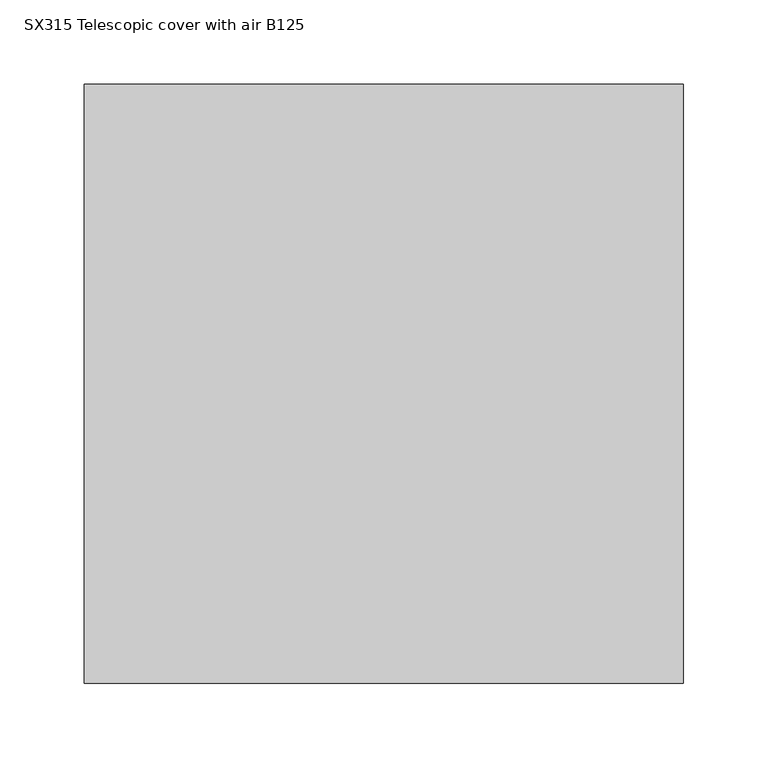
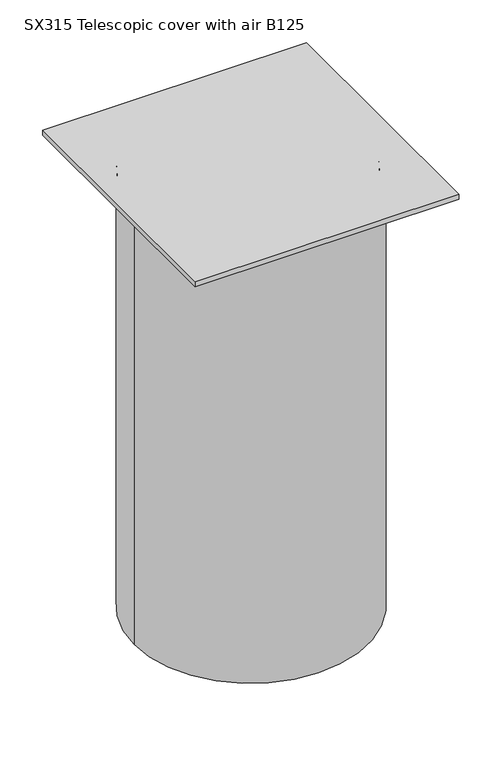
"""IFC4 building model written with IfcOpenShell, lengths in millimetres: pipe fitting geometry, Z_PIF_UN_Q-Bic_Plus_Telescopic_Square_Cover_Wavin_(nested) : SX315 Telescopic cover with air B125."""

from ifc_helpers import new_model, si_unit, frame, origin, place, context, project, spatial, polyline, circle_curve, outline, extrude, source, transform, mapped, element, save
from ifc_brep_helpers import plane_surface, cylinder_surface, revolved_surface, advanced_brep


def sx315_telescopic_cover_with_air_b125_2c5652aa(model_context):
    return source(origin(), model_context, "Body", "SolidModel", [
        advanced_brep(
        [(-149.8, 0.0, -7.0), (149.8, 0.0, -7.0), (157.5, 0.0, -7.0), (-157.5, 0.0, -7.0), (-149.8, 0.0, -630.0), (149.8, 0.0, -630.0), (-157.5, 0.0, -630.0), (157.5, 0.0, -630.0)],
        [
            (0, 1, circle_curve(frame((0.0, 0.0, -7.0), z_axis=(0.0, 0.0, -1.0), x_axis=(1.0, 0.0, 0.0)), 149.8)),
            (1, 2),
            (2, 3, circle_curve(frame((0.0, 0.0, -7.0), z_axis=(0.0, 0.0, 1.0), x_axis=(1.0, 0.0, 0.0)), 157.5)),
            (3, 0),
            (1, 0, circle_curve(frame((0.0, 0.0, -7.0), z_axis=(0.0, 0.0, -1.0), x_axis=(1.0, 0.0, 0.0)), 149.8)),
            (3, 2, circle_curve(frame((0.0, 0.0, -7.0), z_axis=(0.0, 0.0, 1.0), x_axis=(1.0, 0.0, 0.0)), 157.5)),
            (4, 5, circle_curve(frame((0.0, 0.0, -630.0), z_axis=(0.0, 0.0, -1.0), x_axis=(1.0, 0.0, 0.0)), 149.8)),
            (5, 1),
            (0, 4),
            (5, 4, circle_curve(frame((0.0, 0.0, -630.0), z_axis=(0.0, 0.0, -1.0), x_axis=(1.0, 0.0, 0.0)), 149.8)),
            (6, 7, circle_curve(frame((0.0, 0.0, -630.0), z_axis=(0.0, 0.0, -1.0), x_axis=(1.0, 0.0, 0.0)), 157.5)),
            (7, 5),
            (4, 6),
            (7, 6, circle_curve(frame((0.0, 0.0, -630.0), z_axis=(0.0, 0.0, -1.0), x_axis=(1.0, 0.0, 0.0)), 157.5)),
            (2, 7),
            (6, 3),
        ],
        [
            plane_surface(frame((0.0, 0.0, -7.0), z_axis=(0.0, 0.0, 1.0), x_axis=(1.0, 0.0, 0.0))),
            revolved_surface(polyline([(149.8, 0.0, -7.0), (149.8, 0.0, -630.0)]), (0.0, 0.0, -7.0), (0.0, 0.0, 1.0)),
            plane_surface(frame((0.0, 0.0, -630.0), z_axis=(0.0, 0.0, -1.0), x_axis=(1.0, 0.0, 0.0))),
            cylinder_surface(frame((0.0, 0.0, -7.0), z_axis=(0.0, 0.0, 1.0), x_axis=(1.0, 0.0, 0.0)), 157.5),
        ],
        [
            (0, [[1, 2, 3, 4]]),
            (0, [[5, -4, 6, -2]]),
            (1, [[7, 8, -1, 9]]),
            (1, [[10, -9, -5, -8]]),
            (2, [[11, 12, -7, 13]]),
            (2, [[14, -13, -10, -12]]),
            (3, [[-3, 15, -11, 16]]),
            (3, [[-6, -16, -14, -15]]),
        ],
    ),
        extrude(outline(polyline([(177.5, 177.5), (177.5, -177.5), (-177.5, -177.5), (-177.5, 177.5), (177.5, 177.5)])), frame((0.0, 0.0, -7.0), z_axis=(0.0, 0.0, 1.0), x_axis=(1.0, 0.0, 0.0)), (0.0, 0.0, 1.0), 7.0),
    ])


if __name__ == "__main__":
    model = new_model("IFC4")
    model_context = context("Model", 3, world=origin())
    ifc_project = project(units=[si_unit("LENGTHUNIT", "METRE", prefix="MILLI")], contexts=[model_context])
    site = spatial("IfcSite", under=ifc_project)
    building = spatial("IfcBuilding", under=site)
    placement = place(None, origin())
    sx315_telescopic_cover_with_air_b125_shape = sx315_telescopic_cover_with_air_b125_2c5652aa(model_context)
    element("IfcPipeFitting", 1, ObjectType="Z_PIF_UN_Q-Bic_Plus_Telescopic_Square_Cover_Wavin_(nested) : SX315 Telescopic cover with air B125", at=placement, inside=building, context=model_context, shape_type="MappedRepresentation", body=[
        mapped(sx315_telescopic_cover_with_air_b125_shape, transform((0.0, 0.0, 0.0), x_axis=(1.0, 0.0, 0.0), y_axis=(0.0, 1.0, 0.0), z_axis=(0.0, 0.0, 1.0))),
    ])
    save(model, "model.ifc")
